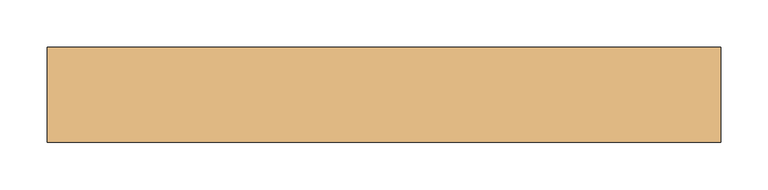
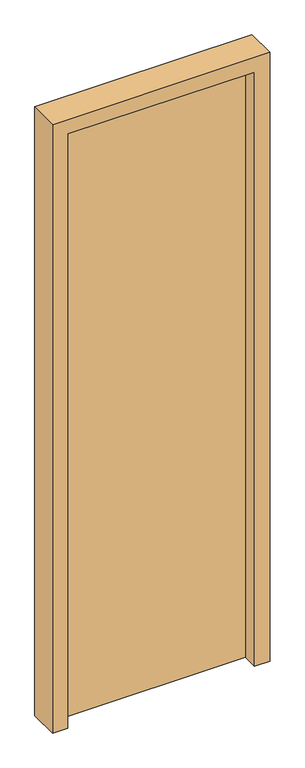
"""IFC4 building model written with IfcOpenShell, lengths in millimetres: door geometry, (Dr)_ДУ(распашная)_1Ст_Прямоугольная : (Вн)_ДГ(0.71х2.1(h))."""

from ifc_helpers import new_model, si_unit, frame, origin, origin_with_axes, place, context, project, spatial, polyline, outline, extrude, source, transform, mapped, element, save


def door_8baa2d43(model_context):
    return source(origin(), model_context, "Body", "SweptSolid", [
        extrude(outline(polyline([(305.0, 50.0), (305.0, 0.0), (-305.0, 0.0), (-305.0, 50.0), (305.0, 50.0)])), origin_with_axes(), (0.0, 0.0, 1.0), 2050.0),
        extrude(outline(polyline([(0.0, -355.0), (0.0, -305.0), (2050.0, -305.0), (2050.0, 305.0), (0.0, 305.0), (0.0, 355.0), (2100.0, 355.0), (2100.0, -355.0), (0.0, -355.0)])), frame((0.0, -50.0, 0.0), z_axis=(0.0, 1.0, 0.0), x_axis=(0.0, 0.0, 1.0)), (0.0, 0.0, 1.0), 100.0),
    ])


if __name__ == "__main__":
    model = new_model("IFC4")
    model_context = context("Model", 3, world=origin())
    ifc_project = project(units=[si_unit("LENGTHUNIT", "METRE", prefix="MILLI")], contexts=[model_context])
    site = spatial("IfcSite", under=ifc_project)
    building = spatial("IfcBuilding", under=site)
    placement = place(None, origin())
    door_shape = door_8baa2d43(model_context)
    element("IfcDoor", 1, ObjectType="(Dr)_ДУ(распашная)_1Ст_Прямоугольная : (Вн)_ДГ(0.71х2.1(h))", at=placement, inside=building, context=model_context, shape_type="MappedRepresentation", body=[
        mapped(door_shape, transform((0.0, 0.0, 0.0), x_axis=(1.0, 0.0, 0.0), y_axis=(0.0, 1.0, 0.0), z_axis=(0.0, 0.0, 1.0))),
    ])
    save(model, "model.ifc")
